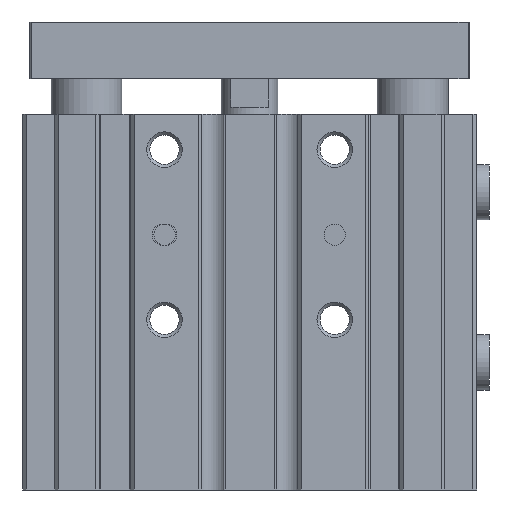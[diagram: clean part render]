
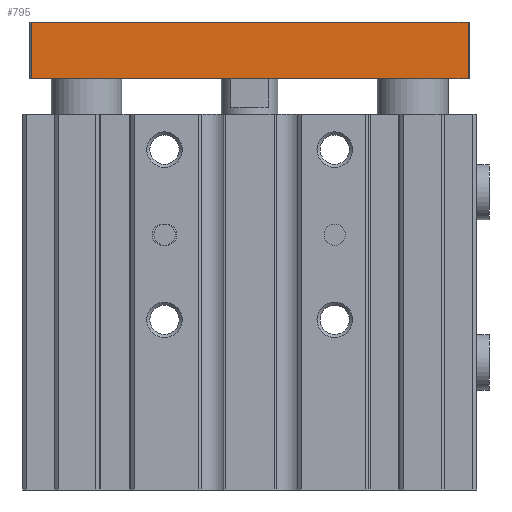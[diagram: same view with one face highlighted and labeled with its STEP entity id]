
A CAD part, left-side view. The second image highlights one B-rep face of the part: STEP entity #795.
In plain terms, the highlighted planar face has unit normal (-1, 0, 0).
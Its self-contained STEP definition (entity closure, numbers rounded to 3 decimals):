
#795 = ADVANCED_FACE( '', ( #1790 ), #1791, .F. );
#1790 = FACE_OUTER_BOUND( '', #2988, .T. );
#1791 = PLANE( '', #2989 );
#2988 = EDGE_LOOP( '', ( #5163, #5164, #5165, #5166 ) );
#2989 = AXIS2_PLACEMENT_3D( '', #5167, #5168, #5169 );
#5163 = ORIENTED_EDGE( '', *, *, #7351, .T. );
#5164 = ORIENTED_EDGE( '', *, *, #7352, .F. );
#5165 = ORIENTED_EDGE( '', *, *, #7353, .F. );
#5166 = ORIENTED_EDGE( '', *, *, #7354, .T. );
#5167 = CARTESIAN_POINT( '', ( -12.5, 30.8, 13. ) );
#5168 = DIRECTION( '', ( 1., 0., 0. ) );
#5169 = DIRECTION( '', ( 0., 0., -1. ) );
#7351 = EDGE_CURVE( '', #8970, #8971, #8972, .T. );
#7352 = EDGE_CURVE( '', #8973, #8971, #8974, .T. );
#7353 = EDGE_CURVE( '', #8975, #8973, #8976, .T. );
#7354 = EDGE_CURVE( '', #8975, #8970, #8977, .T. );
#8970 = VERTEX_POINT( '', #11193 );
#8971 = VERTEX_POINT( '', #11194 );
#8972 = LINE( '', #11195, #11196 );
#8973 = VERTEX_POINT( '', #11197 );
#8974 = LINE( '', #11198, #11199 );
#8975 = VERTEX_POINT( '', #11200 );
#8976 = LINE( '', #11201, #11202 );
#8977 = LINE( '', #11203, #11204 );
#11193 = CARTESIAN_POINT( '', ( -12.5, 30.8, 5. ) );
#11194 = CARTESIAN_POINT( '', ( -12.5, -30.8, 5. ) );
#11195 = CARTESIAN_POINT( '', ( -12.5, 30.8, 5. ) );
#11196 = VECTOR( '', #12776, 1000. );
#11197 = CARTESIAN_POINT( '', ( -12.5, -30.8, 13. ) );
#11198 = CARTESIAN_POINT( '', ( -12.5, -30.8, 13. ) );
#11199 = VECTOR( '', #12777, 1000. );
#11200 = CARTESIAN_POINT( '', ( -12.5, 30.8, 13. ) );
#11201 = CARTESIAN_POINT( '', ( -12.5, 30.8, 13. ) );
#11202 = VECTOR( '', #12778, 1000. );
#11203 = CARTESIAN_POINT( '', ( -12.5, 30.8, 13. ) );
#11204 = VECTOR( '', #12779, 1000. );
#12776 = DIRECTION( '', ( 0., -1., 0. ) );
#12777 = DIRECTION( '', ( 0., 0., -1. ) );
#12778 = DIRECTION( '', ( 0., -1., 0. ) );
#12779 = DIRECTION( '', ( 0., 0., -1. ) );
